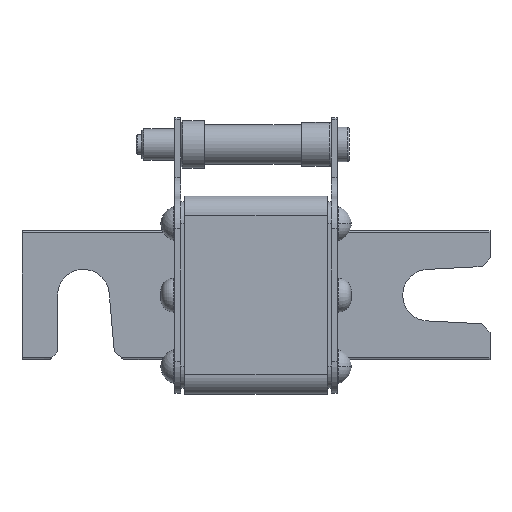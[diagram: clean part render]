
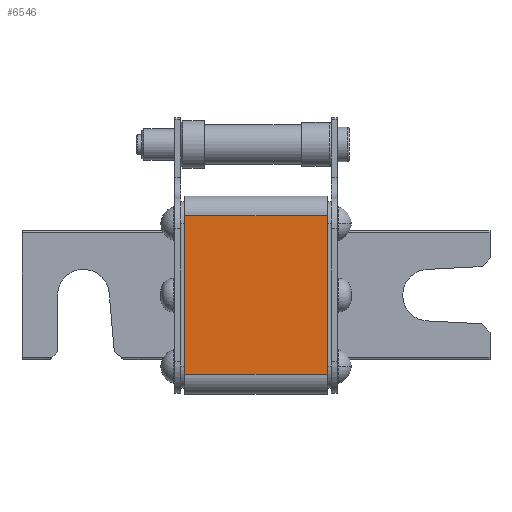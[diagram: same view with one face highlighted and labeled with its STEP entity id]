
A CAD part, left-side view. The second image highlights one B-rep face of the part: STEP entity #6546.
In plain terms, the highlighted planar face has unit normal (-1, 0, 0).
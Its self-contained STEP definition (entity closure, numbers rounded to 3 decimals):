
#1655 = EDGE_CURVE ( 'NONE', #5379, #9803, #8171, .T. ) ;
#1710 = EDGE_CURVE ( 'NONE', #5379, #8280, #15429, .T. ) ;
#2216 = VECTOR ( 'NONE', #10186, 1000. ) ;
#2872 = VECTOR ( 'NONE', #14525, 1000. ) ;
#3954 = PLANE ( 'NONE',  #7800 ) ;
#4863 = VECTOR ( 'NONE', #15893, 1000. ) ;
#5240 = EDGE_CURVE ( 'NONE', #9803, #13659, #6917, .T. ) ;
#5379 = VERTEX_POINT ( 'NONE', #8235 ) ;
#5408 = ORIENTED_EDGE ( 'NONE', *, *, #5240, .F. ) ;
#5851 = ORIENTED_EDGE ( 'NONE', *, *, #8533, .T. ) ;
#6546 = ADVANCED_FACE ( 'NONE', ( #15143 ), #3954, .F. ) ;
#6917 = LINE ( 'NONE', #15031, #2216 ) ;
#6943 = EDGE_LOOP ( 'NONE', ( #5851, #5408, #7575, #10071 ) ) ;
#7008 = CARTESIAN_POINT ( 'NONE',  ( -25., -18., -20. ) ) ;
#7266 = DIRECTION ( 'NONE',  ( 0., 0., 1. ) ) ;
#7575 = ORIENTED_EDGE ( 'NONE', *, *, #1655, .F. ) ;
#7800 = AXIS2_PLACEMENT_3D ( 'NONE', #9141, #14206, #11788 ) ;
#8042 = CARTESIAN_POINT ( 'NONE',  ( -25., -18., 20. ) ) ;
#8171 = LINE ( 'NONE', #13373, #2872 ) ;
#8235 = CARTESIAN_POINT ( 'NONE',  ( -25., 18., -20. ) ) ;
#8280 = VERTEX_POINT ( 'NONE', #7008 ) ;
#8533 = EDGE_CURVE ( 'NONE', #8280, #13659, #12165, .T. ) ;
#8802 = VECTOR ( 'NONE', #7266, 1000. ) ;
#9141 = CARTESIAN_POINT ( 'NONE',  ( -25., 18., -20. ) ) ;
#9803 = VERTEX_POINT ( 'NONE', #16260 ) ;
#10071 = ORIENTED_EDGE ( 'NONE', *, *, #1710, .T. ) ;
#10186 = DIRECTION ( 'NONE',  ( 0., -1., 0. ) ) ;
#11788 = DIRECTION ( 'NONE',  ( 0., 0., -1. ) ) ;
#12165 = LINE ( 'NONE', #12335, #8802 ) ;
#12227 = CARTESIAN_POINT ( 'NONE',  ( -25., 18., -20. ) ) ;
#12335 = CARTESIAN_POINT ( 'NONE',  ( -25., -18., -20. ) ) ;
#13373 = CARTESIAN_POINT ( 'NONE',  ( -25., 18., -20. ) ) ;
#13659 = VERTEX_POINT ( 'NONE', #8042 ) ;
#14206 = DIRECTION ( 'NONE',  ( 1., 0., 0. ) ) ;
#14525 = DIRECTION ( 'NONE',  ( 0., 0., 1. ) ) ;
#15031 = CARTESIAN_POINT ( 'NONE',  ( -25., 18., 20. ) ) ;
#15143 = FACE_OUTER_BOUND ( 'NONE', #6943, .T. ) ;
#15429 = LINE ( 'NONE', #12227, #4863 ) ;
#15893 = DIRECTION ( 'NONE',  ( 0., -1., 0. ) ) ;
#16260 = CARTESIAN_POINT ( 'NONE',  ( -25., 18., 20. ) ) ;
